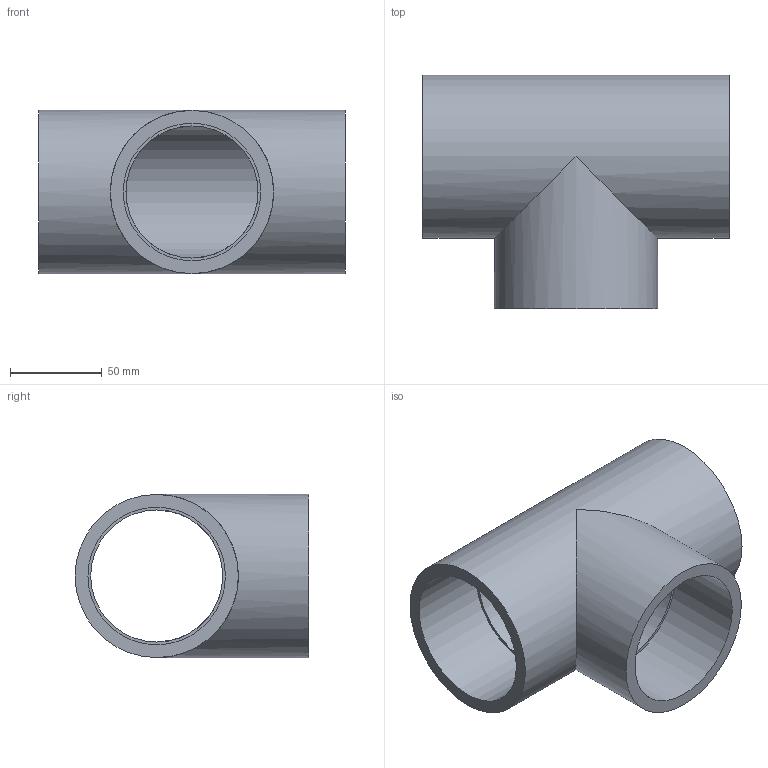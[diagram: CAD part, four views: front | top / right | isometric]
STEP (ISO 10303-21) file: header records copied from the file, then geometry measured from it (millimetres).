
FILE_DESCRIPTION(/* description */ ('PVC ti a 90° incollaggio metrico'),/* implementation_level */ '2;1');
FILE_NAME(/* name */ 'C:\Users\POLYPIPE\Desktop\DATASET INVENTOR\LIBRERIA EFFAST\RACCORDI 3DxWEB\RDR\3D_RDRTID\3D_RDRTID0750.stp',/* time_stamp */ '2018-01-19T15:38:30+01:00',/* author */ ('POLYPIPE'),/* organization */ ('Polypipe Italia s.r.l.'),/* preprocessor_version */ 'ST-DEVELOPER v16.1',/* originating_system */ 'Autodesk Inventor 2016',/* authorisation */ '');
FILE_SCHEMA (('CONFIG_CONTROL_DESIGN'));
Length unit declared in the file: millimetre
Products named in the file (1): 3D_RDRTID
Bounding box: 167 x 127.5 x 89 mm (x, y, z)
Volume: 381115.5 mm3; surface area: 107932.1 mm2
Topology: 1 solids, 1 shells, 13 faces, 25 edges, 18 vertices
Faces by surface type: cylinder 7, plane 6
Full cylindrical faces by diameter (mm): 72 x2, 75 x3, 89 x2
Entity records: 326 total; most frequent: DIRECTION 60, CARTESIAN_POINT 46, ORIENTED_EDGE 32, AXIS2_PLACEMENT_3D 30, EDGE_LOOP 28, VERTEX_POINT 16, EDGE_CURVE 16, FACE_BOUND 15
